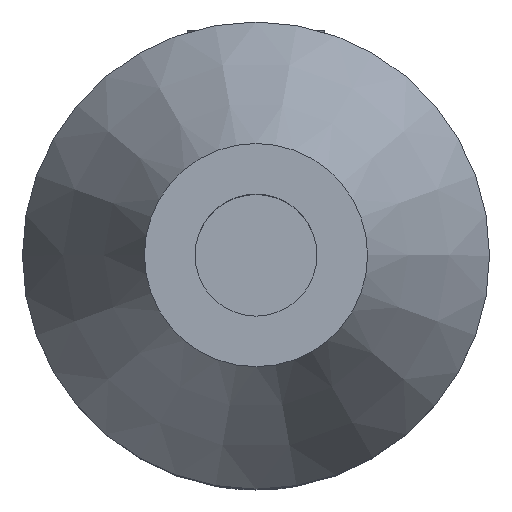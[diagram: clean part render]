
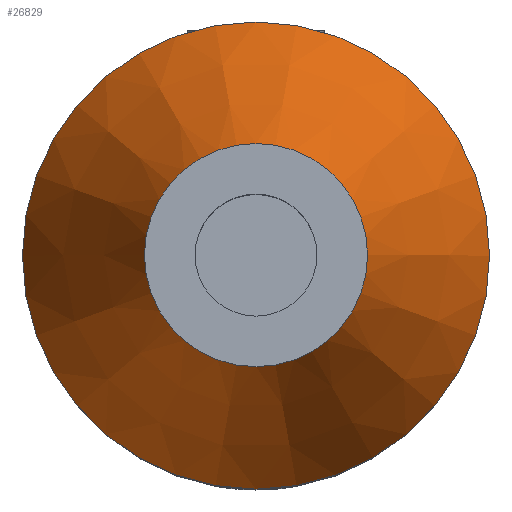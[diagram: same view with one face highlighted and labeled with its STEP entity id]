
A CAD part, top view. The second image highlights one B-rep face of the part: STEP entity #26829.
In plain terms, the highlighted conical face has half-angle 24.492 degrees and reference radius 15.7 mm.
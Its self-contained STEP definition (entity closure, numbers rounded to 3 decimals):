
#26746 = EDGE_CURVE('',#26747,#26747,#26749,.T.);
#26747 = VERTEX_POINT('',#26748);
#26748 = CARTESIAN_POINT('',(15.7,0.,11.));
#26749 = SURFACE_CURVE('',#26750,(#26755,#26767),.PCURVE_S1.);
#26750 = CIRCLE('',#26751,15.7);
#26751 = AXIS2_PLACEMENT_3D('',#26752,#26753,#26754);
#26752 = CARTESIAN_POINT('',(0.,0.,11.));
#26753 = DIRECTION('',(0.,0.,1.));
#26754 = DIRECTION('',(1.,0.,0.));
#26755 = PCURVE('',#26756,#26761);
#26756 = CYLINDRICAL_SURFACE('',#26757,15.7);
#26757 = AXIS2_PLACEMENT_3D('',#26758,#26759,#26760);
#26758 = CARTESIAN_POINT('',(0.,0.,7.));
#26759 = DIRECTION('',(0.,0.,1.));
#26760 = DIRECTION('',(1.,0.,0.));
#26761 = DEFINITIONAL_REPRESENTATION('',(#26762),#26766);
#26762 = LINE('',#26763,#26764);
#26763 = CARTESIAN_POINT('',(0.,4.));
#26764 = VECTOR('',#26765,1.);
#26765 = DIRECTION('',(1.,0.));
#26766 = ( GEOMETRIC_REPRESENTATION_CONTEXT(2) 
PARAMETRIC_REPRESENTATION_CONTEXT() REPRESENTATION_CONTEXT('2D SPACE',''
  ) );
#26767 = PCURVE('',#26768,#26773);
#26768 = CONICAL_SURFACE('',#26769,15.7,0.427);
#26769 = AXIS2_PLACEMENT_3D('',#26770,#26771,#26772);
#26770 = CARTESIAN_POINT('',(0.,0.,11.));
#26771 = DIRECTION('',(0.,0.,-1.));
#26772 = DIRECTION('',(1.,0.,0.));
#26773 = DEFINITIONAL_REPRESENTATION('',(#26774),#26777);
#26774 = B_SPLINE_CURVE_WITH_KNOTS('',1,(#26775,#26776),.UNSPECIFIED.,
  .F.,.F.,(2,2),(0.,6.283),.PIECEWISE_BEZIER_KNOTS.);
#26775 = CARTESIAN_POINT('',(0.,0.));
#26776 = CARTESIAN_POINT('',(-6.283,0.));
#26777 = ( GEOMETRIC_REPRESENTATION_CONTEXT(2) 
PARAMETRIC_REPRESENTATION_CONTEXT() REPRESENTATION_CONTEXT('2D SPACE',''
  ) );
#26829 = ADVANCED_FACE('',(#26830),#26768,.T.);
#26830 = FACE_BOUND('',#26831,.T.);
#26831 = EDGE_LOOP('',(#26832,#26861,#26882,#26883));
#26832 = ORIENTED_EDGE('',*,*,#26833,.F.);
#26833 = EDGE_CURVE('',#26834,#26834,#26836,.T.);
#26834 = VERTEX_POINT('',#26835);
#26835 = CARTESIAN_POINT('',(7.5,0.,29.));
#26836 = SURFACE_CURVE('',#26837,(#26842,#26849),.PCURVE_S1.);
#26837 = CIRCLE('',#26838,7.5);
#26838 = AXIS2_PLACEMENT_3D('',#26839,#26840,#26841);
#26839 = CARTESIAN_POINT('',(0.,0.,29.));
#26840 = DIRECTION('',(0.,0.,1.));
#26841 = DIRECTION('',(1.,0.,0.));
#26842 = PCURVE('',#26768,#26843);
#26843 = DEFINITIONAL_REPRESENTATION('',(#26844),#26848);
#26844 = LINE('',#26845,#26846);
#26845 = CARTESIAN_POINT('',(-0.,-18.));
#26846 = VECTOR('',#26847,1.);
#26847 = DIRECTION('',(-1.,-0.));
#26848 = ( GEOMETRIC_REPRESENTATION_CONTEXT(2) 
PARAMETRIC_REPRESENTATION_CONTEXT() REPRESENTATION_CONTEXT('2D SPACE',''
  ) );
#26849 = PCURVE('',#26850,#26855);
#26850 = PLANE('',#26851);
#26851 = AXIS2_PLACEMENT_3D('',#26852,#26853,#26854);
#26852 = CARTESIAN_POINT('',(0.,0.,29.));
#26853 = DIRECTION('',(0.,0.,1.));
#26854 = DIRECTION('',(1.,0.,0.));
#26855 = DEFINITIONAL_REPRESENTATION('',(#26856),#26860);
#26856 = CIRCLE('',#26857,7.5);
#26857 = AXIS2_PLACEMENT_2D('',#26858,#26859);
#26858 = CARTESIAN_POINT('',(0.,0.));
#26859 = DIRECTION('',(1.,0.));
#26860 = ( GEOMETRIC_REPRESENTATION_CONTEXT(2) 
PARAMETRIC_REPRESENTATION_CONTEXT() REPRESENTATION_CONTEXT('2D SPACE',''
  ) );
#26861 = ORIENTED_EDGE('',*,*,#26862,.F.);
#26862 = EDGE_CURVE('',#26747,#26834,#26863,.T.);
#26863 = SEAM_CURVE('',#26864,(#26868,#26875),.PCURVE_S1.);
#26864 = LINE('',#26865,#26866);
#26865 = CARTESIAN_POINT('',(15.7,0.,11.));
#26866 = VECTOR('',#26867,1.);
#26867 = DIRECTION('',(-0.415,0.,0.91)
  );
#26868 = PCURVE('',#26768,#26869);
#26869 = DEFINITIONAL_REPRESENTATION('',(#26870),#26874);
#26870 = LINE('',#26871,#26872);
#26871 = CARTESIAN_POINT('',(-6.283,0.));
#26872 = VECTOR('',#26873,1.);
#26873 = DIRECTION('',(-0.,-1.));
#26874 = ( GEOMETRIC_REPRESENTATION_CONTEXT(2) 
PARAMETRIC_REPRESENTATION_CONTEXT() REPRESENTATION_CONTEXT('2D SPACE',''
  ) );
#26875 = PCURVE('',#26768,#26876);
#26876 = DEFINITIONAL_REPRESENTATION('',(#26877),#26881);
#26877 = LINE('',#26878,#26879);
#26878 = CARTESIAN_POINT('',(0.,-0.));
#26879 = VECTOR('',#26880,1.);
#26880 = DIRECTION('',(-0.,-1.));
#26881 = ( GEOMETRIC_REPRESENTATION_CONTEXT(2) 
PARAMETRIC_REPRESENTATION_CONTEXT() REPRESENTATION_CONTEXT('2D SPACE',''
  ) );
#26882 = ORIENTED_EDGE('',*,*,#26746,.T.);
#26883 = ORIENTED_EDGE('',*,*,#26862,.T.);
